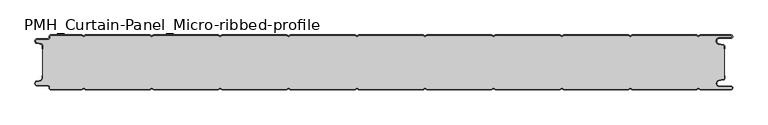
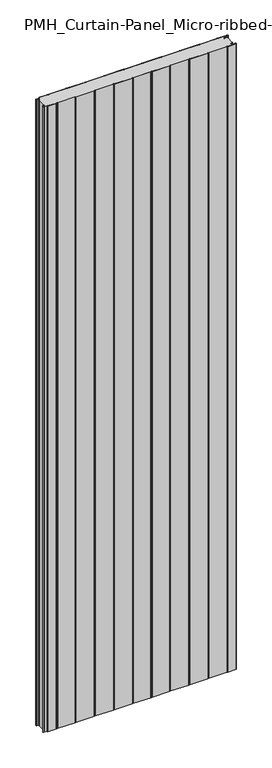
"""IFC4 building model written with IfcOpenShell, lengths in millimetres: plate geometry, PMH_Curtain-Panel_Micro-ribbed-profile : ACH_PMH_Stone-wool-Panel_80M."""

from ifc_helpers import new_model, si_unit, point, frame_2d, origin, origin_with_axes, place, context, project, spatial, polyline, circle_curve, trimmed, segment, composite_curve, outline, extrude, source, transform, mapped, element, save


def pmh_curtain_panel_micro_ribbed_profile_5b7a0303(model_context):
    return source(origin(), model_context, "Body", "SweptSolid", [
        extrude(outline(composite_curve([segment(trimmed(circle_curve(frame_2d((-502.0, -15.878557)), 2.0), [point((-500.0, -15.878557))], [point((-501.5500978, -13.9298169))], True, "CARTESIAN"), True, "CONTINUOUS"), segment(polyline([(-501.5500978, -13.9298169), (-507.7098239, -12.507732)]), True, "CONTINUOUS"), segment(trimmed(circle_curve(frame_2d((-506.9, -9.0)), 3.6), [point((-507.7098239, -12.507732))], [point((-506.9, -5.4))], False, "CARTESIAN"), True, "CONTINUOUS"), segment(polyline([(-506.9, -5.4), (-491.4, -5.4)]), True, "CONTINUOUS"), segment(trimmed(circle_curve(frame_2d((-491.4, -3.4)), 2.0), [point((-491.4, -5.4))], [point((-489.4, -3.4))], True, "CARTESIAN"), True, "CONTINUOUS"), segment(polyline([(-489.4, -3.4), (-489.4, -2.0)]), True, "CONTINUOUS"), segment(trimmed(circle_curve(frame_2d((-487.4, -2.0)), 2.0), [point((-489.4, -2.0))], [point((-487.4, 0.0))], False, "CARTESIAN"), True, "CONTINUOUS"), segment(polyline([(-487.4, 0.0), (-442.0999995, 0.0), (-439.4, -1.5588455), (-436.7000005, 0.0), (-342.0999995, 0.0), (-339.4, -1.5588455), (-336.7000005, 0.0), (-242.0999995, 0.0), (-239.4, -1.5588455), (-236.7000005, 0.0), (-142.0999995, 0.0), (-139.4, -1.5588455), (-136.7000005, 0.0), (-42.0999995, 0.0), (-39.4, -1.5588455), (-36.7000005, 0.0), (57.9000005, 0.0), (60.6, -1.5588455), (63.2999995, 0.0), (157.9000005, 0.0), (160.6, -1.5588455), (163.2999995, 0.0), (257.9000005, 0.0), (260.6, -1.5588455), (263.2999995, 0.0), (357.9000005, 0.0), (360.6, -1.5588455), (363.2999995, 0.0), (457.9000005, 0.0), (460.6, -1.5588455), (463.2999995, 0.0), (508.1, 0.0)]), True, "CONTINUOUS"), segment(trimmed(circle_curve(frame_2d((508.1, -2.5)), 2.5), [point((508.1, 0.0))], [point((508.1, -5.0))], False, "CARTESIAN"), True, "CONTINUOUS"), segment(polyline([(508.1, -5.0), (491.1, -5.0)]), True, "CONTINUOUS"), segment(trimmed(circle_curve(frame_2d((491.1, -9.0)), 4.0), [point((491.1, -5.0))], [point((490.405407, -12.939231))], True, "CARTESIAN"), True, "CONTINUOUS"), segment(polyline([(490.405407, -12.939231), (496.8514855, -14.0758491)]), True, "CONTINUOUS"), segment(trimmed(circle_curve(frame_2d((496.4, -16.6363492)), 2.6), [point((496.8514855, -14.0758491))], [point((499.0, -16.6363492))], False, "CARTESIAN"), True, "CONTINUOUS"), segment(polyline([(499.0, -16.6363492), (499.0, -20.0), (498.2, -20.0), (498.2, -16.6363492)]), True, "CONTINUOUS"), segment(trimmed(circle_curve(frame_2d((496.4, -16.6363492)), 1.8), [point((498.2, -16.6363492))], [point((496.7125669, -14.8636953))], True, "CARTESIAN"), True, "CONTINUOUS"), segment(polyline([(496.7125669, -14.8636953), (490.2664884, -13.7270772)]), True, "CONTINUOUS"), segment(trimmed(circle_curve(frame_2d((491.1, -9.0)), 4.8), [point((490.2664884, -13.7270772))], [point((491.1, -4.2))], False, "CARTESIAN"), True, "CONTINUOUS"), segment(polyline([(491.1, -4.2), (508.1, -4.2)]), True, "CONTINUOUS"), segment(trimmed(circle_curve(frame_2d((508.1, -2.5)), 1.7), [point((508.1, -4.2))], [point((508.1, -0.8))], True, "CARTESIAN"), True, "CONTINUOUS"), segment(polyline([(508.1, -0.8), (463.5143588, -0.8), (460.6, -2.482606), (457.6856412, -0.8), (363.5143588, -0.8), (360.6, -2.482606), (357.6856412, -0.8), (263.5143588, -0.8), (260.6, -2.482606), (257.6856412, -0.8), (163.5143588, -0.8), (160.6, -2.482606), (157.6856412, -0.8), (63.5143588, -0.8), (60.6, -2.482606), (57.6856412, -0.8), (-36.4856412, -0.8), (-39.4, -2.482606), (-42.3143588, -0.8), (-136.4856412, -0.8), (-139.4, -2.482606), (-142.3143588, -0.8), (-236.4856412, -0.8), (-239.4, -2.482606), (-242.3143588, -0.8), (-336.4856412, -0.8), (-339.4, -2.482606), (-342.3143588, -0.8), (-436.4856412, -0.8), (-439.4, -2.482606), (-442.3143588, -0.8), (-487.4, -0.8)]), True, "CONTINUOUS"), segment(trimmed(circle_curve(frame_2d((-487.4, -2.0)), 1.2), [point((-487.4, -0.8))], [point((-488.6, -2.0))], True, "CARTESIAN"), True, "CONTINUOUS"), segment(polyline([(-488.6, -2.0), (-488.6, -3.4)]), True, "CONTINUOUS"), segment(trimmed(circle_curve(frame_2d((-491.4, -3.4)), 2.8), [point((-488.6, -3.4))], [point((-491.4, -6.2))], False, "CARTESIAN"), True, "CONTINUOUS"), segment(polyline([(-491.4, -6.2), (-506.9, -6.2)]), True, "CONTINUOUS"), segment(trimmed(circle_curve(frame_2d((-506.9, -9.0)), 2.8), [point((-506.9, -6.2))], [point((-507.529863, -11.7282362))], True, "CARTESIAN"), True, "CONTINUOUS"), segment(polyline([(-507.529863, -11.7282362), (-501.370137, -13.150321)]), True, "CONTINUOUS"), segment(trimmed(circle_curve(frame_2d((-502.0, -15.878557)), 2.8), [point((-501.370137, -13.150321))], [point((-499.2, -15.878557))], False, "CARTESIAN"), True, "CONTINUOUS"), segment(polyline([(-499.2, -15.878557), (-499.2, -20.0), (-500.0, -20.0), (-500.0, -15.878557)]), True, "CONTINUOUS")], self_intersect=False)), origin_with_axes(), (0.0, 0.0, 1.0), 3500.0),
        extrude(outline(composite_curve([segment(polyline([(-499.2, -64.1214426), (-499.2, -15.8785573)]), True, "CONTINUOUS"), segment(trimmed(circle_curve(frame_2d((-502.0, -15.8785573)), 2.8), [point((-499.2, -15.8785573))], [point((-501.370137, -13.1503212))], True, "CARTESIAN"), True, "CONTINUOUS"), segment(polyline([(-501.370137, -13.1503212), (-507.5298631, -11.7282362)]), True, "CONTINUOUS"), segment(trimmed(circle_curve(frame_2d((-506.9, -9.0)), 2.8), [point((-507.5298631, -11.7282362))], [point((-506.9, -6.2))], False, "CARTESIAN"), True, "CONTINUOUS"), segment(polyline([(-506.9, -6.2), (-491.4000001, -6.2)]), True, "CONTINUOUS"), segment(trimmed(circle_curve(frame_2d((-491.4000001, -3.4)), 2.8), [point((-491.4000001, -6.2))], [point((-488.6000001, -3.4))], True, "CARTESIAN"), True, "CONTINUOUS"), segment(polyline([(-488.6000001, -3.4), (-488.6000001, -2.0)]), True, "CONTINUOUS"), segment(trimmed(circle_curve(frame_2d((-487.4000001, -2.0)), 1.2), [point((-488.6000001, -2.0))], [point((-487.4000001, -0.8))], False, "CARTESIAN"), True, "CONTINUOUS"), segment(polyline([(-487.4000001, -0.8), (-442.3143589, -0.8), (-439.4000001, -2.482606), (-436.4856412, -0.8), (-342.3143589, -0.8), (-339.4000001, -2.482606), (-336.4856412, -0.8), (-242.3143589, -0.8), (-239.4000001, -2.482606), (-236.4856412, -0.8), (-142.3143589, -0.8), (-139.4000001, -2.482606), (-136.4856412, -0.8), (-42.3143589, -0.8), (-39.4000001, -2.482606), (-36.4856412, -0.8), (57.6856411, -0.8), (60.5999999, -2.482606), (63.5143588, -0.8), (157.6856411, -0.8), (160.5999999, -2.482606), (163.5143588, -0.8), (257.6856411, -0.8), (260.5999999, -2.482606), (263.5143588, -0.8), (357.6856411, -0.8), (360.5999999, -2.482606), (363.5143588, -0.8), (457.6856411, -0.8), (460.5999999, -2.482606), (463.5143588, -0.8), (508.0999999, -0.8)]), True, "CONTINUOUS"), segment(trimmed(circle_curve(frame_2d((508.0999999, -2.5)), 1.7), [point((508.0999999, -0.8))], [point((508.0999999, -4.2))], False, "CARTESIAN"), True, "CONTINUOUS"), segment(polyline([(508.0999999, -4.2), (491.0999999, -4.2)]), True, "CONTINUOUS"), segment(trimmed(circle_curve(frame_2d((491.0999999, -9.0)), 4.8), [point((491.0999999, -4.2))], [point((490.2664883, -13.7270771))], True, "CARTESIAN"), True, "CONTINUOUS"), segment(polyline([(490.2664883, -13.7270771), (496.7125668, -14.8636953)]), True, "CONTINUOUS"), segment(trimmed(circle_curve(frame_2d((496.3999999, -16.6363492)), 1.8), [point((496.7125668, -14.8636953))], [point((498.1999999, -16.6363492))], False, "CARTESIAN"), True, "CONTINUOUS"), segment(polyline([(498.1999999, -16.6363492), (498.1999999, -63.3636508)]), True, "CONTINUOUS"), segment(trimmed(circle_curve(frame_2d((496.3999999, -63.3636508)), 1.8), [point((498.1999999, -63.3636508))], [point((496.7125668, -65.1363047))], False, "CARTESIAN"), True, "CONTINUOUS"), segment(polyline([(496.7125668, -65.1363047), (490.2664883, -66.2729229)]), True, "CONTINUOUS"), segment(trimmed(circle_curve(frame_2d((491.0999999, -71.0)), 4.8), [point((490.2664883, -66.2729229))], [point((491.0999999, -75.8))], True, "CARTESIAN"), True, "CONTINUOUS"), segment(polyline([(491.0999999, -75.8), (508.0999999, -75.8)]), True, "CONTINUOUS"), segment(trimmed(circle_curve(frame_2d((508.0999999, -77.5)), 1.7), [point((508.0999999, -75.8))], [point((508.0999999, -79.2))], False, "CARTESIAN"), True, "CONTINUOUS"), segment(polyline([(508.0999999, -79.2), (463.5143588, -79.2), (460.5999999, -77.517394), (457.6856411, -79.2), (363.5143588, -79.2), (360.5999999, -77.517394), (357.6856411, -79.2), (263.5143588, -79.2), (260.5999999, -77.517394), (257.6856411, -79.2), (163.5143588, -79.2), (160.5999999, -77.517394), (157.6856411, -79.2), (63.5143588, -79.2), (60.5999999, -77.517394), (57.6856411, -79.2), (-36.4856412, -79.2), (-39.4000001, -77.517394), (-42.3143589, -79.2), (-136.4856412, -79.2), (-139.4000001, -77.517394), (-142.3143589, -79.2), (-236.4856412, -79.2), (-239.4000001, -77.517394), (-242.3143589, -79.2), (-336.4856412, -79.2), (-339.4000001, -77.517394), (-342.3143589, -79.2), (-436.4856412, -79.2), (-439.4000001, -77.517394), (-442.3143589, -79.2), (-487.4000001, -79.2)]), True, "CONTINUOUS"), segment(trimmed(circle_curve(frame_2d((-487.4000001, -78.0)), 1.2), [point((-487.4000001, -79.2))], [point((-488.6000001, -78.0))], False, "CARTESIAN"), True, "CONTINUOUS"), segment(polyline([(-488.6000001, -78.0), (-488.6000001, -76.6)]), True, "CONTINUOUS"), segment(trimmed(circle_curve(frame_2d((-491.4000001, -76.6)), 2.8), [point((-488.6000001, -76.6))], [point((-491.4000001, -73.8))], True, "CARTESIAN"), True, "CONTINUOUS"), segment(polyline([(-491.4000001, -73.8), (-506.9, -73.8)]), True, "CONTINUOUS"), segment(trimmed(circle_curve(frame_2d((-506.9, -71.0)), 2.8), [point((-506.9, -73.8))], [point((-507.5298631, -68.2717638))], False, "CARTESIAN"), True, "CONTINUOUS"), segment(polyline([(-507.5298631, -68.2717638), (-501.370137, -66.8496788)]), True, "CONTINUOUS"), segment(trimmed(circle_curve(frame_2d((-502.0, -64.1214426)), 2.8), [point((-501.370137, -66.8496788))], [point((-499.2, -64.1214426))], True, "CARTESIAN"), True, "CONTINUOUS")], self_intersect=False)), origin_with_axes(), (0.0, 0.0, 1.0), 3500.0),
        extrude(outline(composite_curve([segment(polyline([(-500.0, -64.121443), (-500.0, -60.0), (-499.2, -60.0), (-499.2, -64.121443)]), True, "CONTINUOUS"), segment(trimmed(circle_curve(frame_2d((-502.0, -64.121443)), 2.8), [point((-499.2, -64.121443))], [point((-501.370137, -66.8496792))], False, "CARTESIAN"), True, "CONTINUOUS"), segment(polyline([(-501.370137, -66.8496792), (-507.529863, -68.271764)]), True, "CONTINUOUS"), segment(trimmed(circle_curve(frame_2d((-506.9, -71.0)), 2.8), [point((-507.529863, -68.271764))], [point((-506.9, -73.8))], True, "CARTESIAN"), True, "CONTINUOUS"), segment(polyline([(-506.9, -73.8), (-491.4, -73.8)]), True, "CONTINUOUS"), segment(trimmed(circle_curve(frame_2d((-491.4, -76.6)), 2.8), [point((-491.4, -73.8))], [point((-488.6, -76.6))], False, "CARTESIAN"), True, "CONTINUOUS"), segment(polyline([(-488.6, -76.6), (-488.6, -78.0)]), True, "CONTINUOUS"), segment(trimmed(circle_curve(frame_2d((-487.4, -78.0)), 1.2), [point((-488.6, -78.0))], [point((-487.4, -79.2))], True, "CARTESIAN"), True, "CONTINUOUS"), segment(polyline([(-487.4, -79.2), (-442.3143588, -79.2), (-439.4, -77.517394), (-436.4856412, -79.2), (-342.3143588, -79.2), (-339.4, -77.517394), (-336.4856412, -79.2), (-242.3143588, -79.2), (-239.4, -77.517394), (-236.4856412, -79.2), (-142.3143588, -79.2), (-139.4, -77.517394), (-136.4856412, -79.2), (-42.3143588, -79.2), (-39.4, -77.517394), (-36.4856412, -79.2), (57.6856412, -79.2), (60.6, -77.517394), (63.5143588, -79.2), (157.6856412, -79.2), (160.6, -77.517394), (163.5143588, -79.2), (257.6856412, -79.2), (260.6, -77.517394), (263.5143588, -79.2), (357.6856412, -79.2), (360.6, -77.517394), (363.5143588, -79.2), (457.6856412, -79.2), (460.6, -77.517394), (463.5143588, -79.2), (508.1, -79.2)]), True, "CONTINUOUS"), segment(trimmed(circle_curve(frame_2d((508.1, -77.5)), 1.7), [point((508.1, -79.2))], [point((508.1, -75.8))], True, "CARTESIAN"), True, "CONTINUOUS"), segment(polyline([(508.1, -75.8), (491.1, -75.8)]), True, "CONTINUOUS"), segment(trimmed(circle_curve(frame_2d((491.1, -71.0)), 4.8), [point((491.1, -75.8))], [point((490.2664884, -66.2729229))], False, "CARTESIAN"), True, "CONTINUOUS"), segment(polyline([(490.2664884, -66.2729229), (496.7125669, -65.1363047)]), True, "CONTINUOUS"), segment(trimmed(circle_curve(frame_2d((496.4, -63.3636508)), 1.8), [point((496.7125669, -65.1363047))], [point((498.2, -63.3636508))], True, "CARTESIAN"), True, "CONTINUOUS"), segment(polyline([(498.2, -63.3636508), (498.2, -60.0), (499.0, -60.0), (499.0, -63.3636508)]), True, "CONTINUOUS"), segment(trimmed(circle_curve(frame_2d((496.4, -63.3636508)), 2.6), [point((499.0, -63.3636508))], [point((496.8514855, -65.9241509))], False, "CARTESIAN"), True, "CONTINUOUS"), segment(polyline([(496.8514855, -65.9241509), (490.405407, -67.060769)]), True, "CONTINUOUS"), segment(trimmed(circle_curve(frame_2d((491.1, -71.0)), 4.0), [point((490.405407, -67.060769))], [point((491.1, -75.0))], True, "CARTESIAN"), True, "CONTINUOUS"), segment(polyline([(491.1, -75.0), (508.1, -75.0)]), True, "CONTINUOUS"), segment(trimmed(circle_curve(frame_2d((508.1, -77.5)), 2.5), [point((508.1, -75.0))], [point((508.1, -80.0))], False, "CARTESIAN"), True, "CONTINUOUS"), segment(polyline([(508.1, -80.0), (463.2999995, -80.0), (460.6, -78.4411545), (457.9000005, -80.0), (363.2999995, -80.0), (360.6, -78.4411545), (357.9000005, -80.0), (263.2999995, -80.0), (260.6, -78.4411545), (257.9000005, -80.0), (163.2999995, -80.0), (160.6, -78.4411545), (157.9000005, -80.0), (63.2999995, -80.0), (60.6, -78.4411545), (57.9000005, -80.0), (-36.7000005, -80.0), (-39.4, -78.4411545), (-42.0999995, -80.0), (-136.7000005, -80.0), (-139.4, -78.4411545), (-142.0999995, -80.0), (-236.7000005, -80.0), (-239.4, -78.4411545), (-242.0999995, -80.0), (-336.7000005, -80.0), (-339.4, -78.4411545), (-342.0999995, -80.0), (-436.7000005, -80.0), (-439.4, -78.4411545), (-442.0999995, -80.0), (-487.4, -80.0)]), True, "CONTINUOUS"), segment(trimmed(circle_curve(frame_2d((-487.4, -78.0)), 2.0), [point((-487.4, -80.0))], [point((-489.4, -78.0))], False, "CARTESIAN"), True, "CONTINUOUS"), segment(polyline([(-489.4, -78.0), (-489.4, -76.6)]), True, "CONTINUOUS"), segment(trimmed(circle_curve(frame_2d((-491.4, -76.6)), 2.0), [point((-489.4, -76.6))], [point((-491.4, -74.6))], True, "CARTESIAN"), True, "CONTINUOUS"), segment(polyline([(-491.4, -74.6), (-506.9, -74.6)]), True, "CONTINUOUS"), segment(trimmed(circle_curve(frame_2d((-506.9, -71.0)), 3.6), [point((-506.9, -74.6))], [point((-507.7098239, -67.4922678))], False, "CARTESIAN"), True, "CONTINUOUS"), segment(polyline([(-507.7098239, -67.4922678), (-501.5500979, -66.070183)]), True, "CONTINUOUS"), segment(trimmed(circle_curve(frame_2d((-502.0, -64.121443)), 2.0), [point((-501.5500979, -66.070183))], [point((-500.0, -64.121443))], True, "CARTESIAN"), True, "CONTINUOUS")], self_intersect=False)), origin_with_axes(), (0.0, 0.0, 1.0), 3500.0),
    ])


if __name__ == "__main__":
    model = new_model("IFC4")
    model_context = context("Model", 3, world=origin())
    ifc_project = project(units=[si_unit("LENGTHUNIT", "METRE", prefix="MILLI")], contexts=[model_context])
    site = spatial("IfcSite", under=ifc_project)
    building = spatial("IfcBuilding", under=site)
    placement = place(None, origin())
    pmh_curtain_panel_micro_ribbed_profile_shape = pmh_curtain_panel_micro_ribbed_profile_5b7a0303(model_context)
    element("IfcPlate", 1, ObjectType="PMH_Curtain-Panel_Micro-ribbed-profile : ACH_PMH_Stone-wool-Panel_80M", at=placement, inside=building, context=model_context, shape_type="MappedRepresentation", body=[
        mapped(pmh_curtain_panel_micro_ribbed_profile_shape, transform((0.0, 0.0, 0.0), x_axis=(1.0, 0.0, 0.0), y_axis=(0.0, 1.0, 0.0), z_axis=(0.0, 0.0, 1.0))),
    ])
    save(model, "model.ifc")
